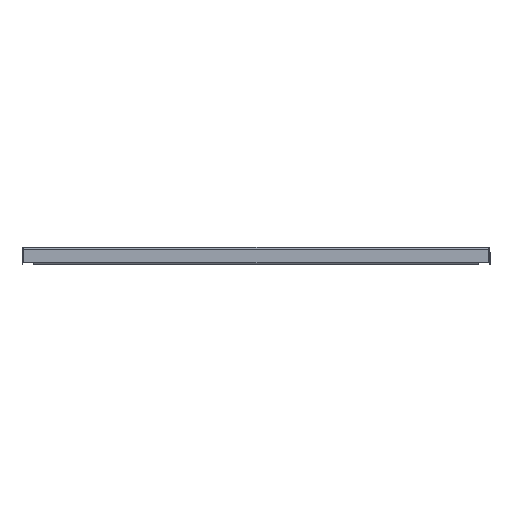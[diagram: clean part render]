
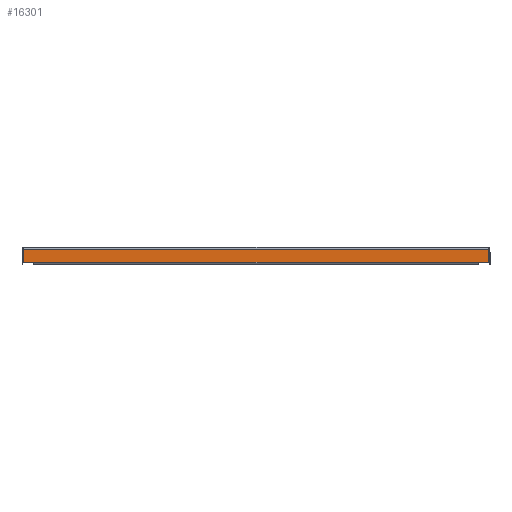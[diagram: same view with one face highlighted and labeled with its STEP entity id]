
A CAD part, top view. The second image highlights one B-rep face of the part: STEP entity #16301.
In plain terms, the highlighted planar face has unit normal (0, 0, 1) as drawn and (0, 1, 0) by its records, which use the part's own axes.
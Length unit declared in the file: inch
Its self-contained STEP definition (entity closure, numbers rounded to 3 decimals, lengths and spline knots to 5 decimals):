
#10841 = CARTESIAN_POINT ( 'NONE',  ( 14.6485, 9.8505, 0.938 ) ) ;
#10842 = CARTESIAN_POINT ( 'NONE',  ( -14.6485, 9.8505, 0.938 ) ) ;
#10854 = DIRECTION ( 'NONE',  ( 0., 0., -1. ) ) ;
#10855 = DIRECTION ( 'NONE',  ( 0., -1., 0. ) ) ;
#10856 = CARTESIAN_POINT ( 'NONE',  ( 14.7245, 9.8505, 1.063 ) ) ;
#10857 = AXIS2_PLACEMENT_3D ( 'NONE', #10856, #10855, #10854 ) ;
#10860 = DIRECTION ( 'NONE',  ( 1., 0., 0. ) ) ;
#10861 = VECTOR ( 'NONE', #10860, 39.37008 ) ;
#10862 = CARTESIAN_POINT ( 'NONE',  ( 14.7245, 9.8505, 0.938 ) ) ;
#10863 = LINE ( 'NONE', #10862, #10861 ) ;
#10865 = FACE_OUTER_BOUND ( 'NONE', #16347, .T. ) ;
#10866 = PLANE ( 'NONE',  #10857 ) ;
#10868 = CARTESIAN_POINT ( 'NONE',  ( 14.6485, 9.8505, 0.115 ) ) ;
#10869 = LINE ( 'NONE', #10929, #10927 ) ;
#10873 = DIRECTION ( 'NONE',  ( 1., 0., 0. ) ) ;
#10874 = VECTOR ( 'NONE', #10873, 39.37008 ) ;
#10875 = CARTESIAN_POINT ( 'NONE',  ( 14.7245, 9.8505, 0.115 ) ) ;
#10877 = DIRECTION ( 'NONE',  ( 1., 0., 0. ) ) ;
#10878 = VECTOR ( 'NONE', #10877, 39.37008 ) ;
#10880 = CARTESIAN_POINT ( 'NONE',  ( 14.7245, 9.8505, 0.938 ) ) ;
#10881 = LINE ( 'NONE', #10880, #10878 ) ;
#10886 = CARTESIAN_POINT ( 'NONE',  ( -14.6485, 9.8505, 0.115 ) ) ;
#10887 = CARTESIAN_POINT ( 'NONE',  ( 13.9745, 9.8505, 0.938 ) ) ;
#10899 = LINE ( 'NONE', #10875, #10874 ) ;
#10920 = DIRECTION ( 'NONE',  ( 0., 0., 1. ) ) ;
#10921 = VECTOR ( 'NONE', #10920, 39.37008 ) ;
#10922 = CARTESIAN_POINT ( 'NONE',  ( -13.9745, 9.8505, 1.063 ) ) ;
#10923 = CARTESIAN_POINT ( 'NONE',  ( -13.9745, 9.8505, 0.938 ) ) ;
#10924 = CARTESIAN_POINT ( 'NONE',  ( -13.9745, 9.8505, 0.948 ) ) ;
#10925 = LINE ( 'NONE', #10922, #10921 ) ;
#10926 = DIRECTION ( 'NONE',  ( 0., 0., -1. ) ) ;
#10927 = VECTOR ( 'NONE', #10926, 39.37008 ) ;
#10929 = CARTESIAN_POINT ( 'NONE',  ( 14.6485, 9.8505, 1.063 ) ) ;
#10930 = DIRECTION ( 'NONE',  ( 0., 0., -1. ) ) ;
#10931 = VECTOR ( 'NONE', #10930, 39.37008 ) ;
#10932 = CARTESIAN_POINT ( 'NONE',  ( -14.6485, 9.8505, 1.063 ) ) ;
#10933 = LINE ( 'NONE', #10932, #10931 ) ;
#11814 = DIRECTION ( 'NONE',  ( 0., 0., -1. ) ) ;
#11815 = VECTOR ( 'NONE', #11814, 39.37008 ) ;
#11816 = CARTESIAN_POINT ( 'NONE',  ( 13.9745, 9.8505, 1.063 ) ) ;
#11817 = LINE ( 'NONE', #11816, #11815 ) ;
#11837 = CARTESIAN_POINT ( 'NONE',  ( 13.9745, 9.8505, 0.948 ) ) ;
#11851 = DIRECTION ( 'NONE',  ( 1., 0., 0. ) ) ;
#11852 = VECTOR ( 'NONE', #11851, 39.37008 ) ;
#11853 = CARTESIAN_POINT ( 'NONE',  ( -13.9745, 9.8505, 0.948 ) ) ;
#11854 = LINE ( 'NONE', #11853, #11852 ) ;
#16299 = ORIENTED_EDGE ( 'NONE', *, *, #16746, .T. ) ;
#16300 = EDGE_CURVE ( 'NONE', #16312, #16344, #10863, .T. ) ;
#16301 = ADVANCED_FACE ( 'NONE', ( #10865 ), #10866, .F. ) ;
#16302 = ORIENTED_EDGE ( 'NONE', *, *, #16340, .T. ) ;
#16304 = VERTEX_POINT ( 'NONE', #10868 ) ;
#16312 = VERTEX_POINT ( 'NONE', #10842 ) ;
#16313 = VERTEX_POINT ( 'NONE', #10841 ) ;
#16314 = ORIENTED_EDGE ( 'NONE', *, *, #16331, .T. ) ;
#16325 = VERTEX_POINT ( 'NONE', #10886 ) ;
#16326 = ORIENTED_EDGE ( 'NONE', *, *, #16328, .F. ) ;
#16327 = EDGE_CURVE ( 'NONE', #16338, #16313, #10881, .T. ) ;
#16328 = EDGE_CURVE ( 'NONE', #16325, #16304, #10899, .T. ) ;
#16330 = EDGE_CURVE ( 'NONE', #16312, #16325, #10933, .T. ) ;
#16331 = EDGE_CURVE ( 'NONE', #16313, #16304, #10869, .T. ) ;
#16332 = ORIENTED_EDGE ( 'NONE', *, *, #16300, .T. ) ;
#16334 = ORIENTED_EDGE ( 'NONE', *, *, #16327, .T. ) ;
#16337 = ORIENTED_EDGE ( 'NONE', *, *, #16754, .T. ) ;
#16338 = VERTEX_POINT ( 'NONE', #10887 ) ;
#16340 = EDGE_CURVE ( 'NONE', #16344, #16343, #10925, .T. ) ;
#16343 = VERTEX_POINT ( 'NONE', #10924 ) ;
#16344 = VERTEX_POINT ( 'NONE', #10923 ) ;
#16347 = EDGE_LOOP ( 'NONE', ( #16299, #16334, #16314, #16326, #16759, #16332, #16302, #16337 ) ) ;
#16746 = EDGE_CURVE ( 'NONE', #16760, #16338, #11817, .T. ) ;
#16754 = EDGE_CURVE ( 'NONE', #16343, #16760, #11854, .T. ) ;
#16759 = ORIENTED_EDGE ( 'NONE', *, *, #16330, .F. ) ;
#16760 = VERTEX_POINT ( 'NONE', #11837 ) ;
